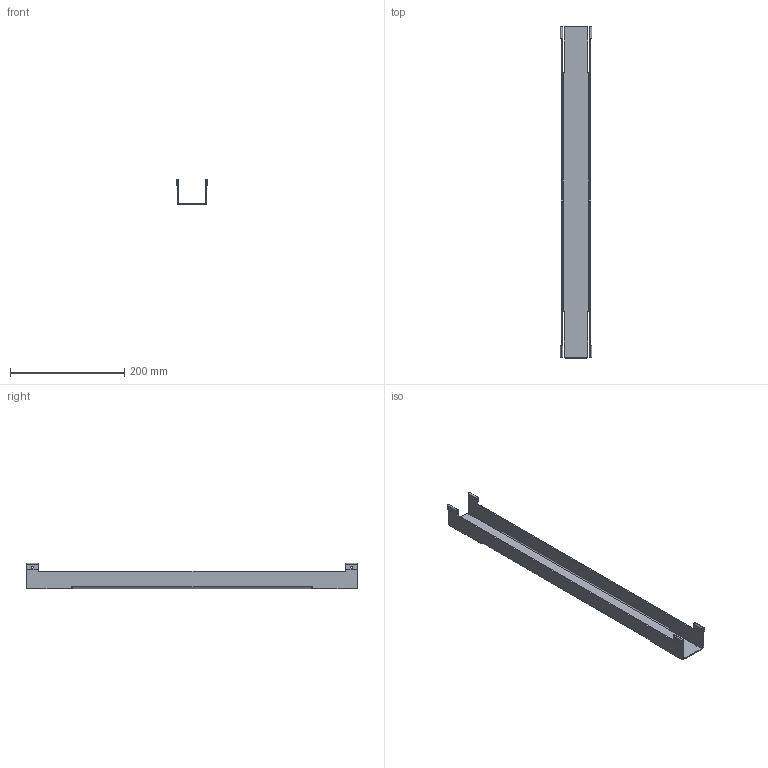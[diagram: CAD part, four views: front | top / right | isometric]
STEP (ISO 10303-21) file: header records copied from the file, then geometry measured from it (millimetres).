
FILE_DESCRIPTION (( 'STEP AP214' ), '1' );
FILE_NAME ('8004815.STEP', '2025-09-23T08:23:29', ( '' ), ( '' ), 'SwSTEP 2.0', 'SolidWorks 2025', '' );
FILE_SCHEMA (( 'AUTOMOTIVE_DESIGN' ));
Length unit declared in the file: millimetre
Products named in the file (1): 8004815
Bounding box: 55.4 x 582 x 44 mm (x, y, z)
Volume: 124768.7 mm3; surface area: 129382.9 mm2
Topology: 1 solids, 1 shells, 110 faces, 348 edges, 240 vertices
Faces by surface type: plane 58, cylinder 52
Entity records: 3995 total; most frequent: DIRECTION 706, CARTESIAN_POINT 699, ORIENTED_EDGE 696, EDGE_CURVE 348, AXIS2_PLACEMENT_3D 247, VERTEX_POINT 240, VECTOR 212, LINE 212
